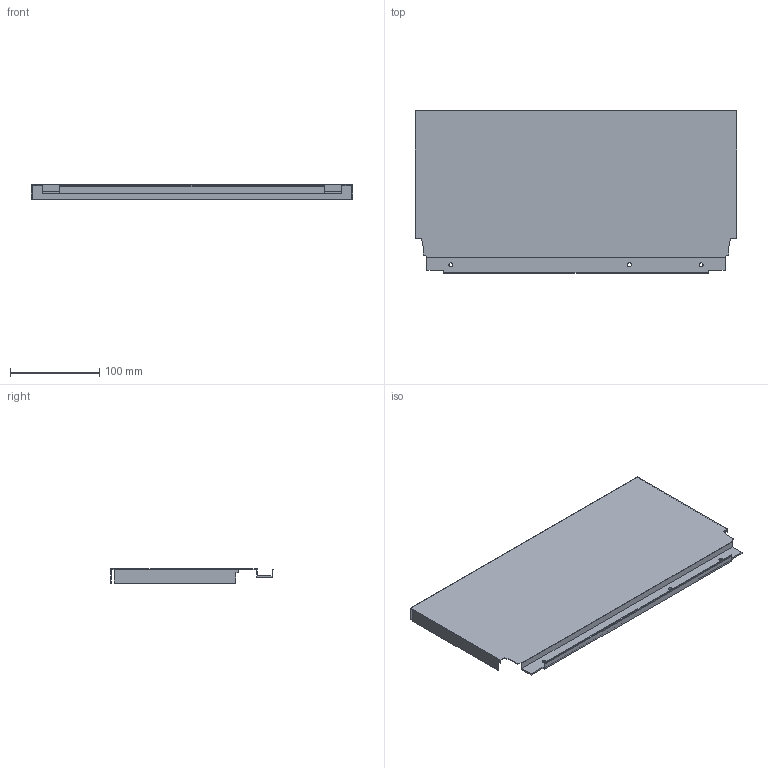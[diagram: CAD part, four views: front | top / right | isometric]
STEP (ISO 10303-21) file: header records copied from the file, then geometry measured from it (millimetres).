
FILE_DESCRIPTION (( 'STEP AP214' ), '1' );
FILE_NAME ('_DWD_XP Stahlrückwand_H182_KAB450_S19.step', '2010-07-08T12:58:04', ( 'grass' ), ( '' ), 'SwSTEP 2.0', 'SolidWorks 2010', '' );
FILE_SCHEMA (( 'AUTOMOTIVE_DESIGN' ));
Length unit declared in the file: millimetre
Products named in the file (1): _DWD_XP Stahlrückwand_H182_KAB450_S19
Bounding box: 361 x 182.49 x 16 mm (x, y, z)
Volume: 68553.5 mm3; surface area: 159708.2 mm2
Topology: 1 solids, 1 shells, 46 faces, 132 edges, 88 vertices
Faces by surface type: plane 40, cylinder 6
Entity records: 1534 total; most frequent: CARTESIAN_POINT 267, ORIENTED_EDGE 264, DIRECTION 238, EDGE_CURVE 132, VECTOR 120, LINE 120, VERTEX_POINT 88, AXIS2_PLACEMENT_3D 59
